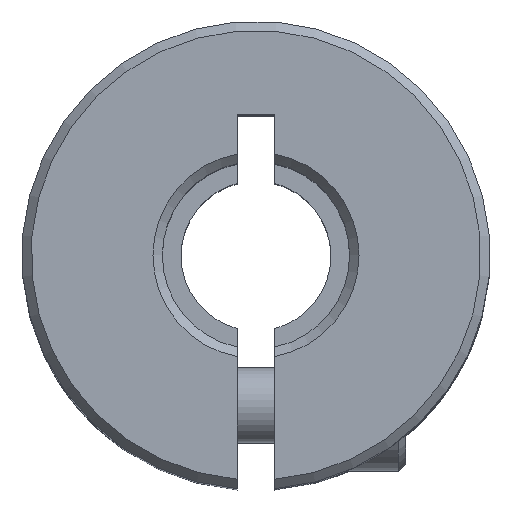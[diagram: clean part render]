
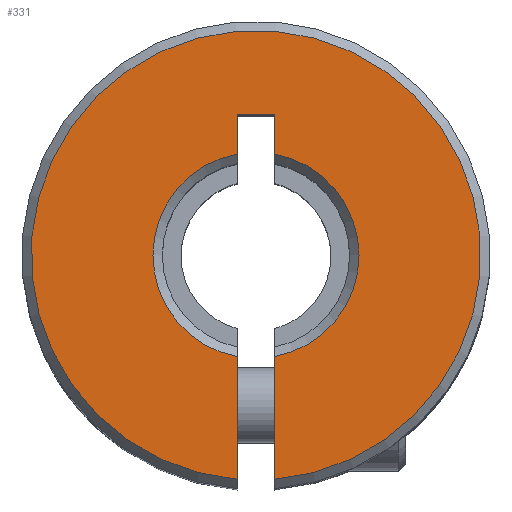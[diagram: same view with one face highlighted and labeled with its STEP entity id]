
A CAD part, top view. The second image highlights one B-rep face of the part: STEP entity #331.
In plain terms, the highlighted planar face has unit normal (0, 0, 1).
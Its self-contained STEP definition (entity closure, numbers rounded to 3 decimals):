
#331=ADVANCED_FACE('',(#903),#905,.T.);
#903=FACE_BOUND('',#904,.T.);
#904=EDGE_LOOP('',(#1368,#1369,#1370,#1371,#1372,#1373,#1374,#1375));
#905=PLANE('',#906);
#906=AXIS2_PLACEMENT_3D('',#907,#908,#909);
#907=CARTESIAN_POINT('',(0.,0.,20.));
#908=DIRECTION('',(0.,0.,1.));
#909=DIRECTION('',(1.,0.,0.));
#1368=ORIENTED_EDGE('',*,*,#1620,.T.);
#1369=ORIENTED_EDGE('',*,*,#1589,.T.);
#1370=ORIENTED_EDGE('',*,*,#1621,.T.);
#1371=ORIENTED_EDGE('',*,*,#1622,.T.);
#1372=ORIENTED_EDGE('',*,*,#1623,.T.);
#1373=ORIENTED_EDGE('',*,*,#1624,.T.);
#1374=ORIENTED_EDGE('',*,*,#1625,.T.);
#1375=ORIENTED_EDGE('',*,*,#1626,.T.);
#1589=EDGE_CURVE('',#1714,#1730,#1732,.F.);
#1620=EDGE_CURVE('',#1789,#1714,#1790,.T.);
#1621=EDGE_CURVE('',#1730,#1791,#1792,.F.);
#1622=EDGE_CURVE('',#1791,#1793,#1794,.F.);
#1623=EDGE_CURVE('',#1793,#1795,#1796,.F.);
#1624=EDGE_CURVE('',#1795,#1797,#1798,.F.);
#1625=EDGE_CURVE('',#1797,#1799,#1800,.F.);
#1626=EDGE_CURVE('',#1799,#1789,#1801,.F.);
#1714=VERTEX_POINT('',#1942);
#1730=VERTEX_POINT('',#1981);
#1732=LINE('',#1987,#1988);
#1789=VERTEX_POINT('',#2998);
#1790=CIRCLE('',#2999,12.);
#1791=VERTEX_POINT('',#3003);
#1792=CIRCLE('',#3004,5.5);
#1793=VERTEX_POINT('',#3008);
#1794=LINE('',#3009,#3010);
#1795=VERTEX_POINT('',#3012);
#1796=LINE('',#3013,#3014);
#1797=VERTEX_POINT('',#3016);
#1798=LINE('',#3017,#3018);
#1799=VERTEX_POINT('',#3020);
#1800=CIRCLE('',#3021,5.5);
#1801=LINE('',#3025,#3026);
#1942=CARTESIAN_POINT('',(-1.,-11.958,20.));
#1981=CARTESIAN_POINT('',(-1.,-5.408,20.));
#1987=CARTESIAN_POINT('',(-1.,-5.408,20.));
#1988=VECTOR('',#1989,1.);
#1989=DIRECTION('',(0.,-1.,0.));
#2998=CARTESIAN_POINT('',(1.,-11.958,20.));
#2999=AXIS2_PLACEMENT_3D('',#3000,#3001,#3002);
#3000=CARTESIAN_POINT('',(0.,0.,20.));
#3001=DIRECTION('',(-0.,0.,1.));
#3002=DIRECTION('',(0.083,-0.997,0.));
#3003=CARTESIAN_POINT('',(-1.,5.408,20.));
#3004=AXIS2_PLACEMENT_3D('',#3005,#3006,#3007);
#3005=CARTESIAN_POINT('',(0.,0.,20.));
#3006=DIRECTION('',(0.,-0.,1.));
#3007=DIRECTION('',(-0.182,0.983,0.));
#3008=CARTESIAN_POINT('',(-1.,7.5,20.));
#3009=CARTESIAN_POINT('',(-1.,7.5,20.));
#3010=VECTOR('',#3011,1.);
#3011=DIRECTION('',(0.,-1.,0.));
#3012=CARTESIAN_POINT('',(1.,7.5,20.));
#3013=CARTESIAN_POINT('',(1.,7.5,20.));
#3014=VECTOR('',#3015,1.);
#3015=DIRECTION('',(-1.,0.,0.));
#3016=CARTESIAN_POINT('',(1.,5.408,20.));
#3017=CARTESIAN_POINT('',(1.,5.408,20.));
#3018=VECTOR('',#3019,1.);
#3019=DIRECTION('',(0.,1.,0.));
#3020=CARTESIAN_POINT('',(1.,-5.408,20.));
#3021=AXIS2_PLACEMENT_3D('',#3022,#3023,#3024);
#3022=CARTESIAN_POINT('',(0.,0.,20.));
#3023=DIRECTION('',(-0.,0.,1.));
#3024=DIRECTION('',(0.182,-0.983,0.));
#3025=CARTESIAN_POINT('',(1.,-11.958,20.));
#3026=VECTOR('',#3027,1.);
#3027=DIRECTION('',(0.,1.,0.));
